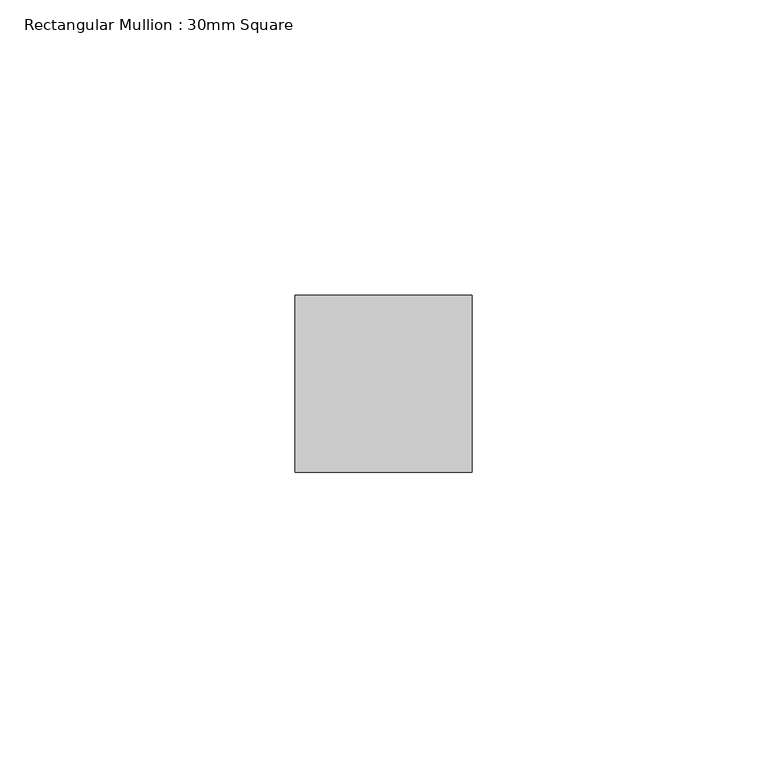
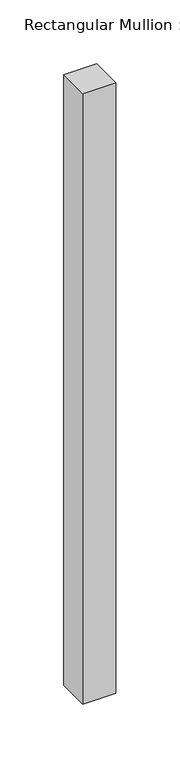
"""IFC4 building model written with IfcOpenShell, lengths in millimetres: member geometry, Rectangular Mullion : 30mm Square."""

from ifc_helpers import new_model, si_unit, frame, origin, place, context, project, spatial, polyline, outline, extrude, source, transform, mapped, element, save


def rectangular_mullion_30mm_square_566eecd6(model_context):
    return source(origin(), model_context, "Body", "SweptSolid", [
        extrude(outline(polyline([(15.0, 15.0), (15.0, -15.0), (-15.0, -15.0), (-15.0, 15.0), (15.0, 15.0)])), frame((0.0, 0.0, -585.1015074), z_axis=(0.0, 0.0, 1.0), x_axis=(1.0, 0.0, 0.0)), (0.0, 0.0, 1.0), 585.1015074),
    ])


if __name__ == "__main__":
    model = new_model("IFC4")
    model_context = context("Model", 3, world=origin())
    ifc_project = project(units=[si_unit("LENGTHUNIT", "METRE", prefix="MILLI")], contexts=[model_context])
    site = spatial("IfcSite", under=ifc_project)
    building = spatial("IfcBuilding", under=site)
    placement = place(None, origin())
    rectangular_mullion_30mm_square_shape = rectangular_mullion_30mm_square_566eecd6(model_context)
    element("IfcMember", 1, ObjectType="Rectangular Mullion : 30mm Square", at=placement, inside=building, context=model_context, shape_type="MappedRepresentation", body=[
        mapped(rectangular_mullion_30mm_square_shape, transform((0.0, 0.0, 0.0), x_axis=(1.0, 0.0, 0.0), y_axis=(0.0, 1.0, 0.0), z_axis=(0.0, 0.0, 1.0))),
    ])
    save(model, "model.ifc")
